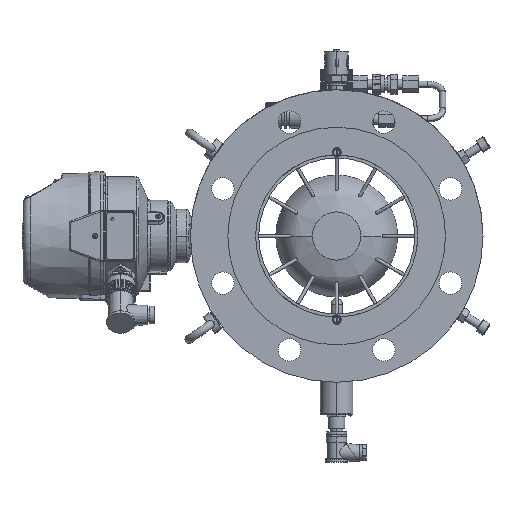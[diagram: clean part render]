
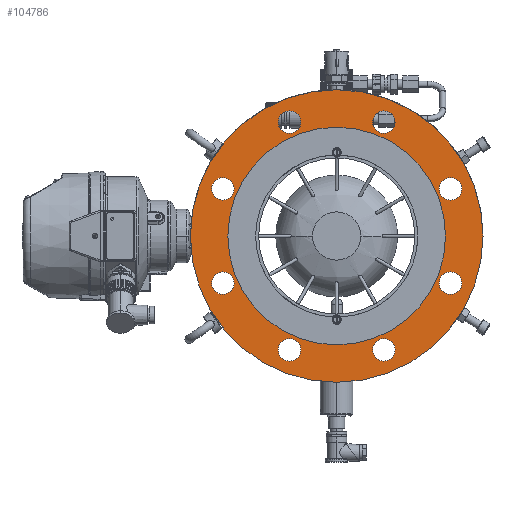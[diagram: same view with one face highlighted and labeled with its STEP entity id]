
A CAD part, left-side view. The second image highlights one B-rep face of the part: STEP entity #104786.
In plain terms, the highlighted planar face has unit normal (-1, 0, 0).
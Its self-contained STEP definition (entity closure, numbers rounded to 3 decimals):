
#91492=CARTESIAN_POINT('',(-103.4,0.,0.));
#91493=DIRECTION('',(1.,0.,0.));
#91494=DIRECTION('',(0.,1.,0.));
#91495=AXIS2_PLACEMENT_3D('',#91492,#91493,#91494);
#91497=CARTESIAN_POINT('',(-103.4,0.,0.));
#91498=DIRECTION('',(1.,0.,0.));
#91499=DIRECTION('',(0.,-1.,0.));
#91500=AXIS2_PLACEMENT_3D('',#91497,#91498,#91499);
#91502=CARTESIAN_POINT('',(-103.4,-110.866,45.922));
#91503=DIRECTION('',(-1.,0.,0.));
#91504=DIRECTION('',(0.,-1.,0.));
#91505=AXIS2_PLACEMENT_3D('',#91502,#91503,#91504);
#91507=CARTESIAN_POINT('',(-103.4,-110.866,45.922));
#91508=DIRECTION('',(-1.,0.,0.));
#91509=DIRECTION('',(0.,1.,0.));
#91510=AXIS2_PLACEMENT_3D('',#91507,#91508,#91509);
#91512=CARTESIAN_POINT('',(-103.4,-110.866,-45.922));
#91513=DIRECTION('',(-1.,0.,0.));
#91514=DIRECTION('',(0.,-1.,0.));
#91515=AXIS2_PLACEMENT_3D('',#91512,#91513,#91514);
#91517=CARTESIAN_POINT('',(-103.4,-110.866,-45.922));
#91518=DIRECTION('',(-1.,0.,0.));
#91519=DIRECTION('',(0.,1.,0.));
#91520=AXIS2_PLACEMENT_3D('',#91517,#91518,#91519);
#91522=CARTESIAN_POINT('',(-103.4,-45.922,-110.866));
#91523=DIRECTION('',(-1.,0.,0.));
#91524=DIRECTION('',(0.,-1.,0.));
#91525=AXIS2_PLACEMENT_3D('',#91522,#91523,#91524);
#91527=CARTESIAN_POINT('',(-103.4,-45.922,-110.866));
#91528=DIRECTION('',(-1.,0.,0.));
#91529=DIRECTION('',(0.,1.,0.));
#91530=AXIS2_PLACEMENT_3D('',#91527,#91528,#91529);
#91532=CARTESIAN_POINT('',(-103.4,45.922,-110.866));
#91533=DIRECTION('',(-1.,0.,0.));
#91534=DIRECTION('',(0.,-1.,0.));
#91535=AXIS2_PLACEMENT_3D('',#91532,#91533,#91534);
#91537=CARTESIAN_POINT('',(-103.4,45.922,-110.866));
#91538=DIRECTION('',(-1.,0.,0.));
#91539=DIRECTION('',(0.,1.,0.));
#91540=AXIS2_PLACEMENT_3D('',#91537,#91538,#91539);
#91542=CARTESIAN_POINT('',(-103.4,110.866,-45.922));
#91543=DIRECTION('',(-1.,0.,0.));
#91544=DIRECTION('',(0.,-1.,0.));
#91545=AXIS2_PLACEMENT_3D('',#91542,#91543,#91544);
#91547=CARTESIAN_POINT('',(-103.4,110.866,-45.922));
#91548=DIRECTION('',(-1.,0.,0.));
#91549=DIRECTION('',(0.,1.,0.));
#91550=AXIS2_PLACEMENT_3D('',#91547,#91548,#91549);
#91552=CARTESIAN_POINT('',(-103.4,110.866,45.922));
#91553=DIRECTION('',(-1.,0.,0.));
#91554=DIRECTION('',(0.,-1.,0.));
#91555=AXIS2_PLACEMENT_3D('',#91552,#91553,#91554);
#91557=CARTESIAN_POINT('',(-103.4,110.866,45.922));
#91558=DIRECTION('',(-1.,0.,0.));
#91559=DIRECTION('',(0.,1.,0.));
#91560=AXIS2_PLACEMENT_3D('',#91557,#91558,#91559);
#91562=CARTESIAN_POINT('',(-103.4,0.,0.));
#91563=DIRECTION('',(-1.,0.,0.));
#91564=DIRECTION('',(0.,1.,0.));
#91565=AXIS2_PLACEMENT_3D('',#91562,#91563,#91564);
#91567=CARTESIAN_POINT('',(-103.4,0.,0.));
#91568=DIRECTION('',(-1.,0.,0.));
#91569=DIRECTION('',(0.,-1.,0.));
#91570=AXIS2_PLACEMENT_3D('',#91567,#91568,#91569);
#91572=CARTESIAN_POINT('',(-103.4,45.922,110.866));
#91573=DIRECTION('',(-1.,0.,0.));
#91574=DIRECTION('',(0.,-1.,0.));
#91575=AXIS2_PLACEMENT_3D('',#91572,#91573,#91574);
#91577=CARTESIAN_POINT('',(-103.4,45.922,110.866));
#91578=DIRECTION('',(-1.,0.,0.));
#91579=DIRECTION('',(0.,1.,0.));
#91580=AXIS2_PLACEMENT_3D('',#91577,#91578,#91579);
#91582=CARTESIAN_POINT('',(-103.4,-45.922,110.866));
#91583=DIRECTION('',(-1.,0.,0.));
#91584=DIRECTION('',(0.,-1.,0.));
#91585=AXIS2_PLACEMENT_3D('',#91582,#91583,#91584);
#91587=CARTESIAN_POINT('',(-103.4,-45.922,110.866));
#91588=DIRECTION('',(-1.,0.,0.));
#91589=DIRECTION('',(0.,1.,0.));
#91590=AXIS2_PLACEMENT_3D('',#91587,#91588,#91589);
#92490=CARTESIAN_POINT('',(-103.4,-34.922,110.866));
#92492=VERTEX_POINT('',#92490);
#92497=CARTESIAN_POINT('',(-103.4,-56.922,110.866));
#92499=VERTEX_POINT('',#92497);
#92560=CARTESIAN_POINT('',(-103.4,-99.866,45.922));
#92562=VERTEX_POINT('',#92560);
#92565=CARTESIAN_POINT('',(-103.4,-121.866,45.922));
#92567=VERTEX_POINT('',#92565);
#92636=CARTESIAN_POINT('',(-103.4,-99.866,-45.922));
#92637=VERTEX_POINT('',#92636);
#92638=CARTESIAN_POINT('',(-103.4,-121.866,-45.922));
#92639=VERTEX_POINT('',#92638);
#92640=CARTESIAN_POINT('',(-103.4,-56.922,-110.866));
#92641=CARTESIAN_POINT('',(-103.4,-34.922,-110.866));
#92642=VERTEX_POINT('',#92640);
#92643=VERTEX_POINT('',#92641);
#92644=CARTESIAN_POINT('',(-103.4,34.922,-110.866));
#92645=CARTESIAN_POINT('',(-103.4,56.922,-110.866));
#92646=VERTEX_POINT('',#92644);
#92647=VERTEX_POINT('',#92645);
#92648=CARTESIAN_POINT('',(-103.4,99.866,-45.922));
#92649=CARTESIAN_POINT('',(-103.4,121.866,-45.922));
#92650=VERTEX_POINT('',#92648);
#92651=VERTEX_POINT('',#92649);
#92652=CARTESIAN_POINT('',(-103.4,99.866,45.922));
#92653=CARTESIAN_POINT('',(-103.4,121.866,45.922));
#92654=VERTEX_POINT('',#92652);
#92655=VERTEX_POINT('',#92653);
#92656=CARTESIAN_POINT('',(-103.4,34.922,110.866));
#92657=CARTESIAN_POINT('',(-103.4,56.922,110.866));
#92658=VERTEX_POINT('',#92656);
#92659=VERTEX_POINT('',#92657);
#92660=CARTESIAN_POINT('',(-103.4,142.5,0.));
#92661=CARTESIAN_POINT('',(-103.4,-142.5,0.));
#92662=VERTEX_POINT('',#92660);
#92663=VERTEX_POINT('',#92661);
#92665=CARTESIAN_POINT('',(-103.4,106.,0.));
#92667=VERTEX_POINT('',#92665);
#92668=CARTESIAN_POINT('',(-103.4,-106.,0.));
#92670=VERTEX_POINT('',#92668);
#104723=CARTESIAN_POINT('',(-103.4,0.,0.));
#104724=DIRECTION('',(1.,0.,0.));
#104725=DIRECTION('',(0.,-1.,0.));
#104726=AXIS2_PLACEMENT_3D('',#104723,#104724,#104725);
#104727=PLANE('',#104726);
#104728=ORIENTED_EDGE('',*,*,#104691,.T.);
#104729=ORIENTED_EDGE('',*,*,#104717,.T.);
#104730=EDGE_LOOP('',(#104728,#104729));
#104731=FACE_OUTER_BOUND('',#104730,.F.);
#104733=ORIENTED_EDGE('',*,*,#104732,.T.);
#104735=ORIENTED_EDGE('',*,*,#104734,.T.);
#104736=EDGE_LOOP('',(#104733,#104735));
#104737=FACE_BOUND('',#104736,.F.);
#104739=ORIENTED_EDGE('',*,*,#104738,.T.);
#104741=ORIENTED_EDGE('',*,*,#104740,.T.);
#104742=EDGE_LOOP('',(#104739,#104741));
#104743=FACE_BOUND('',#104742,.F.);
#104745=ORIENTED_EDGE('',*,*,#104744,.T.);
#104747=ORIENTED_EDGE('',*,*,#104746,.T.);
#104748=EDGE_LOOP('',(#104745,#104747));
#104749=FACE_BOUND('',#104748,.F.);
#104751=ORIENTED_EDGE('',*,*,#104750,.T.);
#104753=ORIENTED_EDGE('',*,*,#104752,.T.);
#104754=EDGE_LOOP('',(#104751,#104753));
#104755=FACE_BOUND('',#104754,.F.);
#104757=ORIENTED_EDGE('',*,*,#104756,.T.);
#104759=ORIENTED_EDGE('',*,*,#104758,.T.);
#104760=EDGE_LOOP('',(#104757,#104759));
#104761=FACE_BOUND('',#104760,.F.);
#104763=ORIENTED_EDGE('',*,*,#104762,.T.);
#104765=ORIENTED_EDGE('',*,*,#104764,.T.);
#104766=EDGE_LOOP('',(#104763,#104765));
#104767=FACE_BOUND('',#104766,.F.);
#104769=ORIENTED_EDGE('',*,*,#104768,.T.);
#104771=ORIENTED_EDGE('',*,*,#104770,.T.);
#104772=EDGE_LOOP('',(#104769,#104771));
#104773=FACE_BOUND('',#104772,.F.);
#104775=ORIENTED_EDGE('',*,*,#104774,.T.);
#104777=ORIENTED_EDGE('',*,*,#104776,.T.);
#104778=EDGE_LOOP('',(#104775,#104777));
#104779=FACE_BOUND('',#104778,.F.);
#104781=ORIENTED_EDGE('',*,*,#104780,.T.);
#104783=ORIENTED_EDGE('',*,*,#104782,.T.);
#104784=EDGE_LOOP('',(#104781,#104783));
#104785=FACE_BOUND('',#104784,.F.);
#104786=ADVANCED_FACE('',(#104731,#104737,#104743,#104749,#104755,#104761,
#104767,#104773,#104779,#104785),#104727,.F.);
#91496=CIRCLE('',#91495,142.5);
#91501=CIRCLE('',#91500,142.5);
#91506=CIRCLE('',#91505,11.);
#91511=CIRCLE('',#91510,11.);
#91516=CIRCLE('',#91515,11.);
#91521=CIRCLE('',#91520,11.);
#91526=CIRCLE('',#91525,11.);
#91531=CIRCLE('',#91530,11.);
#91536=CIRCLE('',#91535,11.);
#91541=CIRCLE('',#91540,11.);
#91546=CIRCLE('',#91545,11.);
#91551=CIRCLE('',#91550,11.);
#91556=CIRCLE('',#91555,11.);
#91561=CIRCLE('',#91560,11.);
#91566=CIRCLE('',#91565,106.);
#91571=CIRCLE('',#91570,106.);
#91576=CIRCLE('',#91575,11.);
#91581=CIRCLE('',#91580,11.);
#91586=CIRCLE('',#91585,11.);
#91591=CIRCLE('',#91590,11.);
#104691=EDGE_CURVE('',#92662,#92663,#91496,.T.);
#104717=EDGE_CURVE('',#92663,#92662,#91501,.T.);
#104732=EDGE_CURVE('',#92567,#92562,#91506,.T.);
#104734=EDGE_CURVE('',#92562,#92567,#91511,.T.);
#104738=EDGE_CURVE('',#92639,#92637,#91516,.T.);
#104740=EDGE_CURVE('',#92637,#92639,#91521,.T.);
#104744=EDGE_CURVE('',#92642,#92643,#91526,.T.);
#104746=EDGE_CURVE('',#92643,#92642,#91531,.T.);
#104750=EDGE_CURVE('',#92646,#92647,#91536,.T.);
#104752=EDGE_CURVE('',#92647,#92646,#91541,.T.);
#104756=EDGE_CURVE('',#92650,#92651,#91546,.T.);
#104758=EDGE_CURVE('',#92651,#92650,#91551,.T.);
#104762=EDGE_CURVE('',#92654,#92655,#91556,.T.);
#104764=EDGE_CURVE('',#92655,#92654,#91561,.T.);
#104768=EDGE_CURVE('',#92667,#92670,#91566,.T.);
#104770=EDGE_CURVE('',#92670,#92667,#91571,.T.);
#104774=EDGE_CURVE('',#92658,#92659,#91576,.T.);
#104776=EDGE_CURVE('',#92659,#92658,#91581,.T.);
#104780=EDGE_CURVE('',#92499,#92492,#91586,.T.);
#104782=EDGE_CURVE('',#92492,#92499,#91591,.T.);
